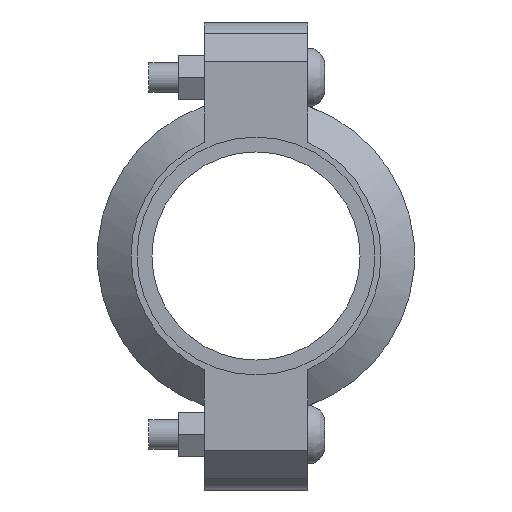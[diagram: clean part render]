
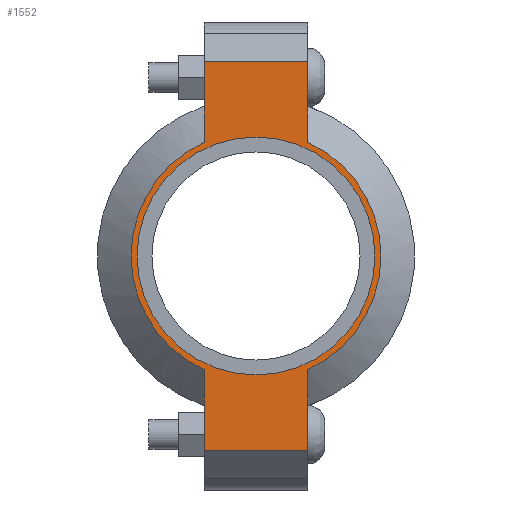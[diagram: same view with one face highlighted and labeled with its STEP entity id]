
A CAD part, left-side view. The second image highlights one B-rep face of the part: STEP entity #1552.
In plain terms, the highlighted planar face has unit normal (-1, 0, 0) as drawn and (0, 0, 1) by its records, which use the part's own axes.
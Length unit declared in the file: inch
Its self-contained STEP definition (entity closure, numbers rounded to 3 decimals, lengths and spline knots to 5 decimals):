
#158=LINE('',#2723,#253);
#171=LINE('',#2767,#266);
#176=LINE('',#2791,#271);
#183=LINE('',#2809,#278);
#190=LINE('',#2834,#285);
#191=LINE('',#2837,#286);
#253=VECTOR('',#2197,0.3937);
#266=VECTOR('',#2226,0.3937);
#271=VECTOR('',#2237,0.3937);
#278=VECTOR('',#2254,0.3937);
#285=VECTOR('',#2275,0.3937);
#286=VECTOR('',#2280,0.3937);
#338=FACE_BOUND('',#516,.T.);
#411=FACE_OUTER_BOUND('',#515,.T.);
#515=EDGE_LOOP('',(#1307,#1308,#1309,#1310,#1311,#1312,#1313,#1314));
#516=EDGE_LOOP('',(#1315));
#585=CIRCLE('',#1769,1.5);
#613=CIRCLE('',#1832,1.575);
#614=CIRCLE('',#1833,1.575);
#677=VERTEX_POINT('',#2511);
#720=VERTEX_POINT('',#2718);
#721=VERTEX_POINT('',#2722);
#737=VERTEX_POINT('',#2764);
#738=VERTEX_POINT('',#2766);
#744=VERTEX_POINT('',#2786);
#745=VERTEX_POINT('',#2790);
#750=VERTEX_POINT('',#2806);
#751=VERTEX_POINT('',#2808);
#835=EDGE_CURVE('',#677,#677,#585,.T.);
#897=EDGE_CURVE('',#721,#720,#158,.T.);
#917=EDGE_CURVE('',#738,#737,#171,.T.);
#926=EDGE_CURVE('',#745,#744,#176,.T.);
#935=EDGE_CURVE('',#751,#750,#183,.T.);
#947=EDGE_CURVE('',#745,#737,#190,.T.);
#948=EDGE_CURVE('',#744,#751,#613,.T.);
#949=EDGE_CURVE('',#721,#750,#191,.T.);
#950=EDGE_CURVE('',#720,#738,#614,.T.);
#1307=ORIENTED_EDGE('',*,*,#947,.F.);
#1308=ORIENTED_EDGE('',*,*,#926,.T.);
#1309=ORIENTED_EDGE('',*,*,#948,.T.);
#1310=ORIENTED_EDGE('',*,*,#935,.T.);
#1311=ORIENTED_EDGE('',*,*,#949,.F.);
#1312=ORIENTED_EDGE('',*,*,#897,.T.);
#1313=ORIENTED_EDGE('',*,*,#950,.T.);
#1314=ORIENTED_EDGE('',*,*,#917,.T.);
#1315=ORIENTED_EDGE('',*,*,#835,.T.);
#1393=PLANE('',#1831);
#1552=ADVANCED_FACE('',(#411,#338),#1393,.T.);
#1769=AXIS2_PLACEMENT_3D('',#2513,#2077,#2078);
#1831=AXIS2_PLACEMENT_3D('',#2835,#2276,#2277);
#1832=AXIS2_PLACEMENT_3D('',#2836,#2278,#2279);
#1833=AXIS2_PLACEMENT_3D('',#2838,#2281,#2282);
#2077=DIRECTION('center_axis',(0.,0.,-1.));
#2078=DIRECTION('ref_axis',(-1.,0.,0.));
#2197=DIRECTION('',(-1.,0.,0.));
#2226=DIRECTION('',(-1.,0.,0.));
#2237=DIRECTION('',(1.,0.,0.));
#2254=DIRECTION('',(1.,0.,0.));
#2275=DIRECTION('',(0.,1.,0.));
#2276=DIRECTION('center_axis',(0.,0.,1.));
#2277=DIRECTION('ref_axis',(1.,0.,0.));
#2278=DIRECTION('center_axis',(0.,0.,1.));
#2279=DIRECTION('ref_axis',(-1.,0.,0.));
#2280=DIRECTION('',(0.,-1.,0.));
#2281=DIRECTION('center_axis',(0.,0.,1.));
#2282=DIRECTION('ref_axis',(-1.,0.,0.));
#2511=CARTESIAN_POINT('',(1.5,0.,0.94));
#2513=CARTESIAN_POINT('Origin',(0.,0.,0.94));
#2718=CARTESIAN_POINT('',(1.43462,0.65,0.94));
#2722=CARTESIAN_POINT('',(2.45,0.65,0.94));
#2723=CARTESIAN_POINT('',(-2.95,0.65,0.94));
#2764=CARTESIAN_POINT('',(-2.45,0.65,0.94));
#2766=CARTESIAN_POINT('',(-1.43462,0.65,0.94));
#2767=CARTESIAN_POINT('',(-2.95,0.65,0.94));
#2786=CARTESIAN_POINT('',(-1.43462,-0.65,0.94));
#2790=CARTESIAN_POINT('',(-2.45,-0.65,0.94));
#2791=CARTESIAN_POINT('',(2.95,-0.65,0.94));
#2806=CARTESIAN_POINT('',(2.45,-0.65,0.94));
#2808=CARTESIAN_POINT('',(1.43462,-0.65,0.94));
#2809=CARTESIAN_POINT('',(2.95,-0.65,0.94));
#2834=CARTESIAN_POINT('',(-2.45,0.325,0.94));
#2835=CARTESIAN_POINT('Origin',(0.,0.,
0.94));
#2836=CARTESIAN_POINT('Origin',(0.,0.,0.94));
#2837=CARTESIAN_POINT('',(2.45,-0.325,0.94));
#2838=CARTESIAN_POINT('Origin',(0.,0.,0.94));
